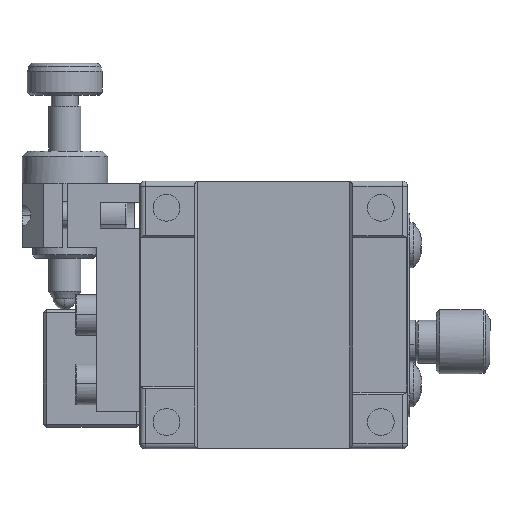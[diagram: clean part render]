
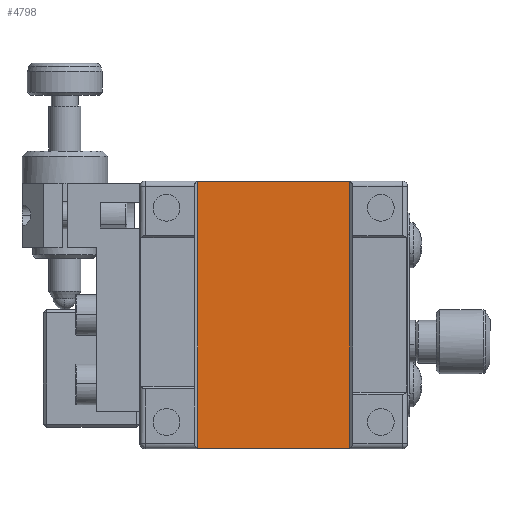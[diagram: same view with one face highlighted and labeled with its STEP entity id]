
A CAD part, front view. The second image highlights one B-rep face of the part: STEP entity #4798.
In plain terms, the highlighted planar face has unit normal (0, -1, 0).
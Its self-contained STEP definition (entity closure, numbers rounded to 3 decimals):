
#1064 = CARTESIAN_POINT ( 'NONE',  ( -3.6, -4.529, -12.5 ) ) ;
#1397 = DIRECTION ( 'NONE',  ( 0., 1., 0. ) ) ;
#1506 = CARTESIAN_POINT ( 'NONE',  ( 10.6, -4.529, 12.458 ) ) ;
#2045 = LINE ( 'NONE', #1064, #37747 ) ;
#2722 = FACE_OUTER_BOUND ( 'NONE', #19616, .T. ) ;
#4798 = ADVANCED_FACE ( 'NONE', ( #2722 ), #19173, .F. ) ;
#5815 = CARTESIAN_POINT ( 'NONE',  ( 10.6, -4.529, -12.5 ) ) ;
#6162 = VECTOR ( 'NONE', #27192, 1000. ) ;
#8692 = DIRECTION ( 'NONE',  ( -1., 0., 0. ) ) ;
#11227 = EDGE_CURVE ( 'NONE', #26682, #22226, #2045, .T. ) ;
#11918 = ORIENTED_EDGE ( 'NONE', *, *, #11227, .F. ) ;
#12215 = AXIS2_PLACEMENT_3D ( 'NONE', #44125, #1397, #26343 ) ;
#12545 = VECTOR ( 'NONE', #8692, 1000. ) ;
#13531 = VERTEX_POINT ( 'NONE', #32660 ) ;
#13616 = VECTOR ( 'NONE', #20626, 1000. ) ;
#15041 = EDGE_CURVE ( 'NONE', #24757, #22226, #22001, .T. ) ;
#19173 = PLANE ( 'NONE',  #12215 ) ;
#19616 = EDGE_LOOP ( 'NONE', ( #11918, #26158, #34990, #35519 ) ) ;
#20626 = DIRECTION ( 'NONE',  ( 1., 0., 0. ) ) ;
#22001 = LINE ( 'NONE', #1506, #12545 ) ;
#22226 = VERTEX_POINT ( 'NONE', #37207 ) ;
#24757 = VERTEX_POINT ( 'NONE', #35007 ) ;
#26012 = DIRECTION ( 'NONE',  ( 0., 0., 1. ) ) ;
#26158 = ORIENTED_EDGE ( 'NONE', *, *, #42331, .T. ) ;
#26343 = DIRECTION ( 'NONE',  ( -1., 0., 0. ) ) ;
#26682 = VERTEX_POINT ( 'NONE', #38107 ) ;
#27192 = DIRECTION ( 'NONE',  ( 0., 0., 1. ) ) ;
#29562 = EDGE_CURVE ( 'NONE', #13531, #24757, #43008, .T. ) ;
#31198 = CARTESIAN_POINT ( 'NONE',  ( -3.6, -4.529, -12.458 ) ) ;
#32660 = CARTESIAN_POINT ( 'NONE',  ( 10.6, -4.529, -12.458 ) ) ;
#34990 = ORIENTED_EDGE ( 'NONE', *, *, #29562, .T. ) ;
#35007 = CARTESIAN_POINT ( 'NONE',  ( 10.6, -4.529, 12.458 ) ) ;
#35519 = ORIENTED_EDGE ( 'NONE', *, *, #15041, .T. ) ;
#37207 = CARTESIAN_POINT ( 'NONE',  ( -3.6, -4.529, 12.458 ) ) ;
#37747 = VECTOR ( 'NONE', #26012, 1000. ) ;
#38107 = CARTESIAN_POINT ( 'NONE',  ( -3.6, -4.529, -12.458 ) ) ;
#42045 = LINE ( 'NONE', #31198, #13616 ) ;
#42331 = EDGE_CURVE ( 'NONE', #26682, #13531, #42045, .T. ) ;
#43008 = LINE ( 'NONE', #5815, #6162 ) ;
#44125 = CARTESIAN_POINT ( 'NONE',  ( -3.6, -4.529, -12.5 ) ) ;
